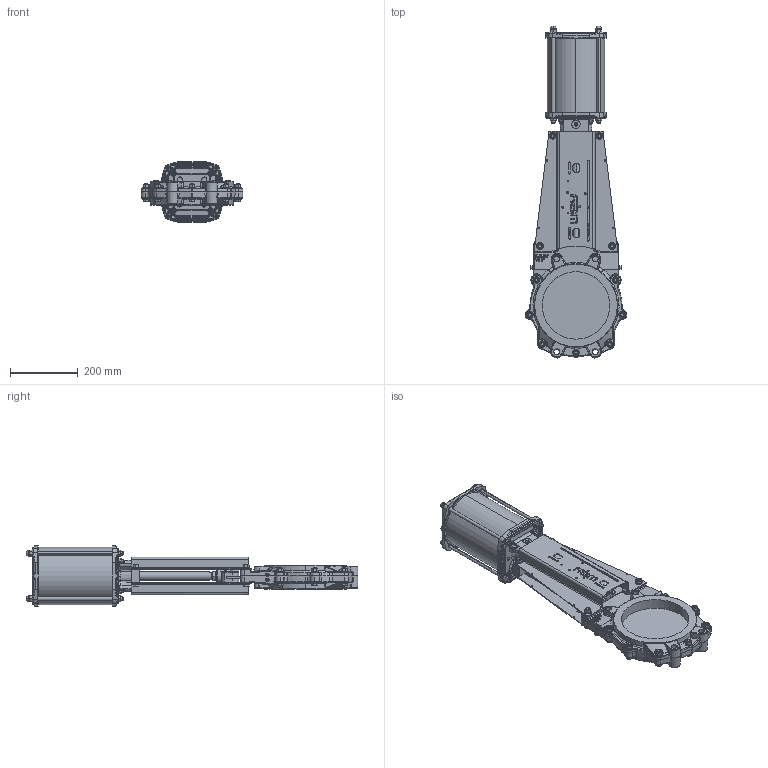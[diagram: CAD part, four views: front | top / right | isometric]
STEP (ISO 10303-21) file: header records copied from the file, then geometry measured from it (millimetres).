
FILE_DESCRIPTION (( 'STEP AP214' ), '1' );
FILE_NAME ('VSC DN 0200.STEP', '2015-09-23T11:09:21', ( 'admin' ), ( 'Hewlett-Packard Company' ), 'SwSTEP 2.0', 'SolidWorks 2013', '' );
FILE_SCHEMA (( 'AUTOMOTIVE_DESIGN' ));
Length unit declared in the file: millimetre
Products named in the file (1): VSC DN 0200
Bounding box: 301 x 983.32 x 180 mm (x, y, z)
Volume: 5767945.8 mm3; surface area: 1267991.2 mm2
Topology: 75 solids, 79 shells, 3896 faces, 9309 edges, 5498 vertices
Faces by surface type: plane 1156, cylinder 952, bspline 757, cone 741, torus 224, sphere 66
Entity records: 184025 total; most frequent: CARTESIAN_POINT 56320, ORIENTED_EDGE 18274, DIRECTION 16546, EDGE_CURVE 9137, AXIS2_PLACEMENT_3D 6650, VERTEX_POINT 5490, EDGE_LOOP 4229, UNCERTAINTY_MEASURE_WITH_UNIT 3973
